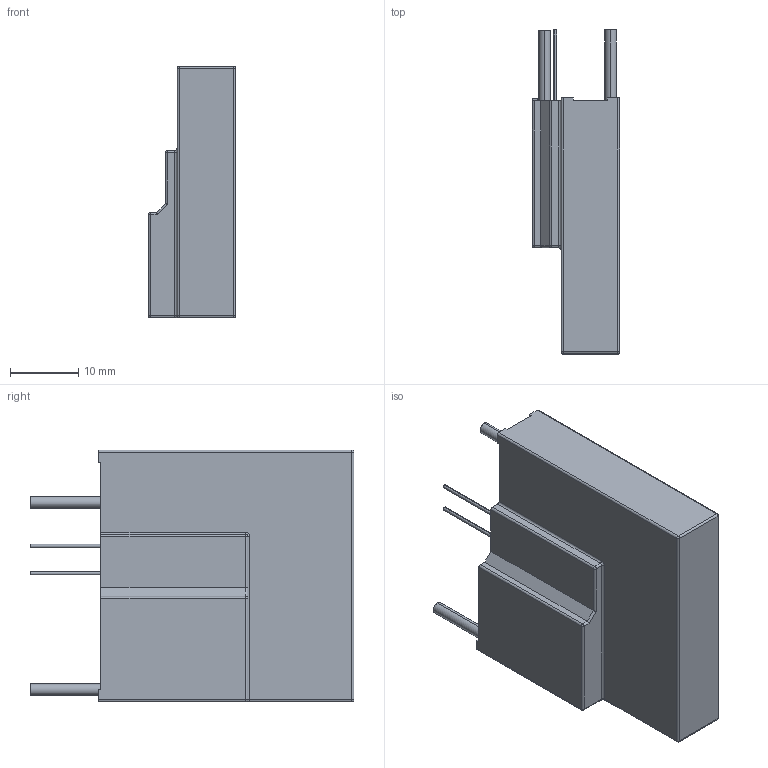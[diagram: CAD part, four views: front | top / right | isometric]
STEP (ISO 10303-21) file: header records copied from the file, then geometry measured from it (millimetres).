
FILE_DESCRIPTION((''),'2;1');
FILE_NAME('TFMOV34S','2020-07-15T13:26:49',('SET-00098'),(''),'CREO PARAMETRIC BY PTC INC, 2018400','CREO PARAMETRIC BY PTC INC, 2018400','');
FILE_SCHEMA(('CONFIG_CONTROL_DESIGN'));
Length unit declared in the file: millimetre
Products named in the file (1): TFMOV34S
Bounding box: 12.8 x 47.6 x 37 mm (x, y, z)
Volume: 13645.3 mm3; surface area: 4465.3 mm2
Topology: 1 solids, 1 shells, 72 faces, 171 edges, 105 vertices
Faces by surface type: plane 36, cylinder 27, sphere 7, torus 2
Entity records: 2099 total; most frequent: DIRECTION 365, CARTESIAN_POINT 362, ORIENTED_EDGE 342, EDGE_CURVE 171, AXIS2_PLACEMENT_3D 124, VECTOR 117, LINE 117, VERTEX_POINT 105
